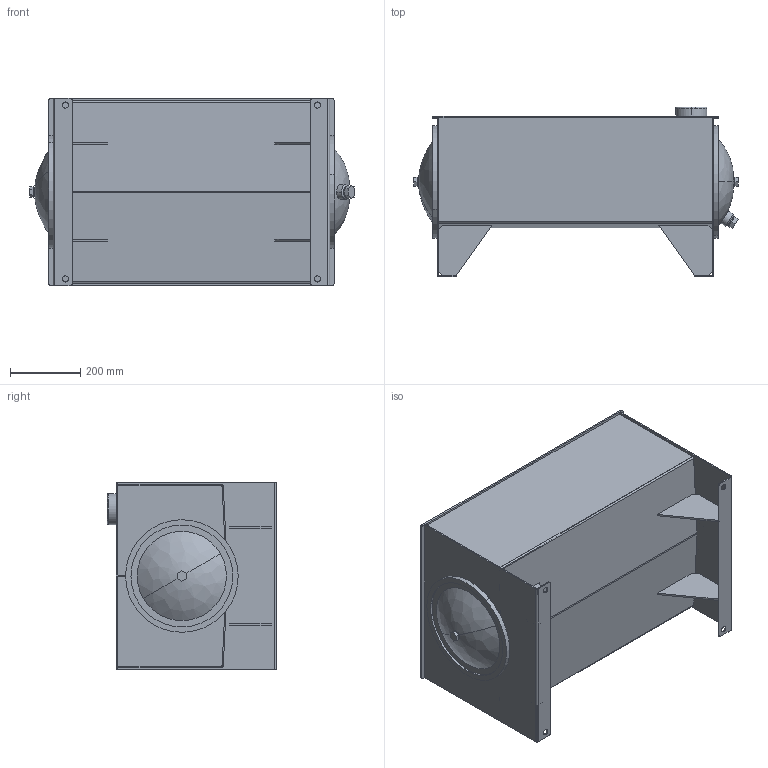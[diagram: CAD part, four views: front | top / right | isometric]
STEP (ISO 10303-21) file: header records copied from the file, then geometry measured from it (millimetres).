
FILE_DESCRIPTION (( 'STEP AP214' ), '1' );
FILE_NAME ('T2-20.STEP', '2022-01-07T12:08:34', ( '' ), ( '' ), 'SwSTEP 2.0', 'SolidWorks 2013', '' );
FILE_SCHEMA (( 'AUTOMOTIVE_DESIGN' ));
Length unit declared in the file: inch
Products named in the file (17): T2-20-BFL; 0.625 - 11 BAFFLE NUT; T2-20-LD; 0.625 - 11 HEX BOLT; DRAIN; 12.00 END COVER; T2-20-EA; TL-ECD-12; T2-20-GST; T2-20; 12.00 GASKET; 12.00 END COVER WITH DRAIN; T2-20-EB; TL-EC-12; FILLER RISER; CRUSH WASHER; T2-20-BDY
Assembly tree (23 placements, depth 3):
  T2-20
    T2-20-LD
    T2-20-EA
    T2-20-EB
    T2-20-BDY
    T2-20-BFL
    T2-20-GST  x4
    FILLER RISER
    TL-ECD-12
      0.625 - 11 HEX BOLT
      0.625 - 11 BAFFLE NUT
      12.00 GASKET
      CRUSH WASHER
      12.00 END COVER WITH DRAIN
      DRAIN
    TL-EC-12
      12.00 END COVER
      12.00 GASKET
      CRUSH WASHER
      0.625 - 11 HEX BOLT
      0.625 - 11 BAFFLE NUT
Bounding box: 925.05 x 482.6 x 533.4 mm (x, y, z)
Volume: 8747385.6 mm3; surface area: 4619578.9 mm2
Topology: 22 solids, 22 shells, 297 faces, 684 edges, 440 vertices
Faces by surface type: plane 168, cylinder 109, bspline 10, cone 8, torus 2
Entity records: 8633 total; most frequent: CARTESIAN_POINT 1496, DIRECTION 1242, ORIENTED_EDGE 1092, EDGE_CURVE 546, AXIS2_PLACEMENT_3D 464, VERTEX_POINT 348, LINE 314, VECTOR 314
